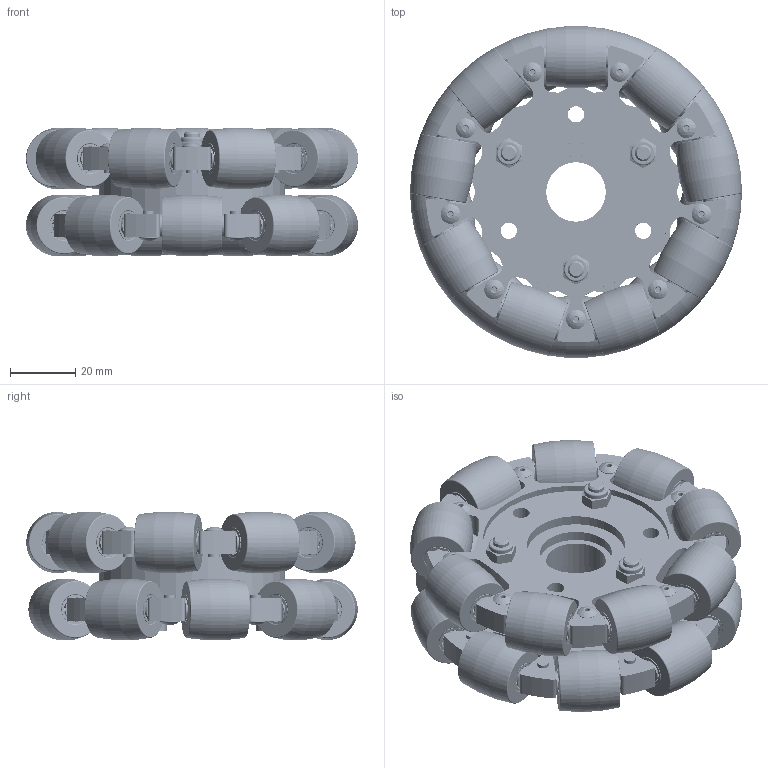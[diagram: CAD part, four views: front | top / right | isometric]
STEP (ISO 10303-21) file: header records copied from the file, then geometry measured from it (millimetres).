
FILE_DESCRIPTION (( 'STEP AP214' ), '1' );
FILE_NAME ('14054-M1.0.STEP', '2016-10-26T00:34:43', ( '微软用户' ), ( '微软中国' ), 'SwSTEP 2.0', 'SolidWorks 2015', '' );
FILE_SCHEMA (( 'AUTOMOTIVE_DESIGN' ));
Length unit declared in the file: millimetre
Products named in the file (13): 穩隊3X8; 4寸90度9分车轮-单件弧形轮组合(垫片); す菜朴3; 旮僱⑩粣創603zz; 4寸90度9分车轮-弧形轮轴; 4寸90度9分车轮-弧形轮(垫片); 4寸90度9分车轮-弧形轮夹板; 4寸90度9分车轮-弧形轮固定板; 14054-M1.0; 滅侂蹟譫M5; 戚芛蹟佪M5; 4寸90度9分车轮-中心胶; 4寸90度9分车轮-多件弧形轮组合
Assembly tree (35 placements, depth 4):
  14054-M1.0
    4寸90度9分车轮-多件弧形轮组合  x2
      4寸90度9分车轮-弧形轮固定板
      4寸90度9分车轮-弧形轮夹板
      4寸90度9分车轮-单件弧形轮组合(垫片)
        4寸90度9分车轮-弧形轮(垫片)
        4寸90度9分车轮-弧形轮轴
        旮僱⑩粣創603zz  x2
        す菜朴3  x2
      穩隊3X8
    4寸90度9分车轮-中心胶
    戚芛蹟佪M5  x3
    滅侂蹟譫M5  x3
Bounding box: 101.6 x 101.42 x 39.32 mm (x, y, z)
Volume: 151701.9 mm3; surface area: 105256.8 mm2
Topology: 425 solids, 425 shells, 3018 faces, 7380 edges, 4790 vertices
Faces by surface type: cylinder 1270, plane 680, sphere 540, torus 438, cone 90
Entity records: 14861 total; most frequent: DIRECTION 2667, CARTESIAN_POINT 2508, ORIENTED_EDGE 2330, EDGE_CURVE 1165, AXIS2_PLACEMENT_3D 1033, VERTEX_POINT 770, VECTOR 601, LINE 601
